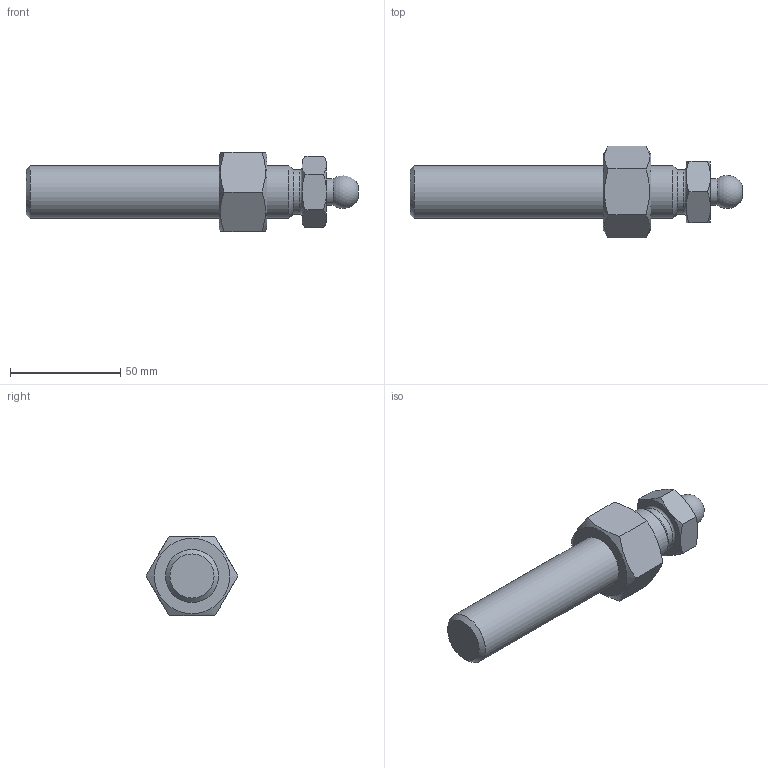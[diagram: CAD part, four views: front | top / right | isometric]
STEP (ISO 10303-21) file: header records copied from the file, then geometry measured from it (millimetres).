
FILE_DESCRIPTION(('STEP AP203'), '1');
FILE_NAME('A00020.124150_1', '', ('UNSPECIFIED'), ('UNSPECIFIED'), 'C3D Converter', 'C3D Toolkit', '');
FILE_SCHEMA(('CONFIG_CONTROL_DESIGN'));
Length unit declared in the file: millimetre
Products named in the file (2): A00020.124150
Assembly tree (1 placements, depth 2):
  A00020.124150
    (unnamed)
Bounding box: 150.3 x 41.57 x 36 mm (x, y, z)
Volume: 81473.1 mm3; surface area: 17692.4 mm2
Topology: 2 solids, 2 shells, 42 faces, 99 edges, 63 vertices
Faces by surface type: plane 18, cone 18, cylinder 4, torus 1, sphere 1
Full cylindrical faces by diameter (mm): 12 x1, 20 x1, 20.752 x1, 24 x1
Entity records: 2639 total; most frequent: CARTESIAN_POINT 1328, DIRECTION 174, ORIENTED_EDGE 174, EDGE_CURVE 87, AXIS2_PLACEMENT_3D 81, VERTEX_POINT 63, EDGE_LOOP 58, FACE_BOUND 46
